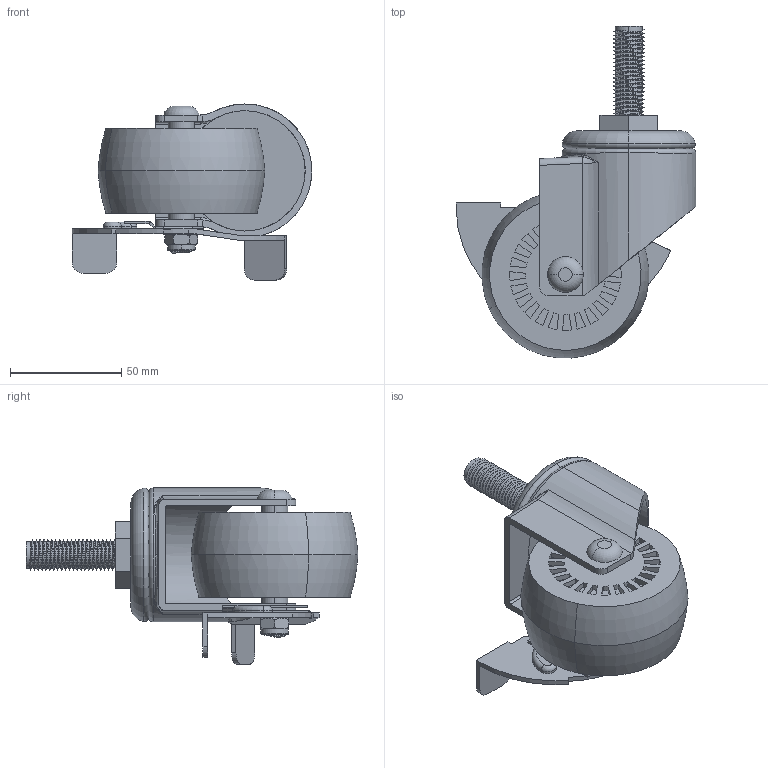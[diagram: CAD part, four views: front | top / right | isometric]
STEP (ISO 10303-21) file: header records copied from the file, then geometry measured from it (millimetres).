
FILE_DESCRIPTION (( 'STEP AP203' ), '1' );
FILE_NAME ('3JP16B.STEP', '2018-01-26T05:39:35', ( '' ), ( '' ), 'SwSTEP 2.0', 'SolidWorks 2014', '' );
FILE_SCHEMA (( 'CONFIG_CONTROL_DESIGN' ));
Length unit declared in the file: millimetre
Products named in the file (9): 螺帽M8; 套管; 剎車架美國-A; 螺絲M8X65; 輪-美國3; 剎車架美國-B; 活動架美國-3; 3JP16B; 牙式底盤美國40
Assembly tree (8 placements, depth 2):
  3JP16B
    活動架美國-3
    牙式底盤美國40
    輪-美國3
    套管
    螺帽M8
    螺絲M8X65
    剎車架美國-A
    剎車架美國-B
Bounding box: 107.5 x 148.9 x 79 mm (x, y, z)
Volume: 225692.6 mm3; surface area: 70465.3 mm2
Topology: 8 solids, 8 shells, 522 faces, 1294 edges, 843 vertices
Faces by surface type: plane 248, cylinder 224, torus 35, bspline 15
Full cylindrical faces by diameter (mm): 8 x10
Entity records: 21891 total; most frequent: CARTESIAN_POINT 8637, ORIENTED_EDGE 2622, DIRECTION 2540, EDGE_CURVE 1311, AXIS2_PLACEMENT_3D 921, VERTEX_POINT 863, LINE 698, VECTOR 698
